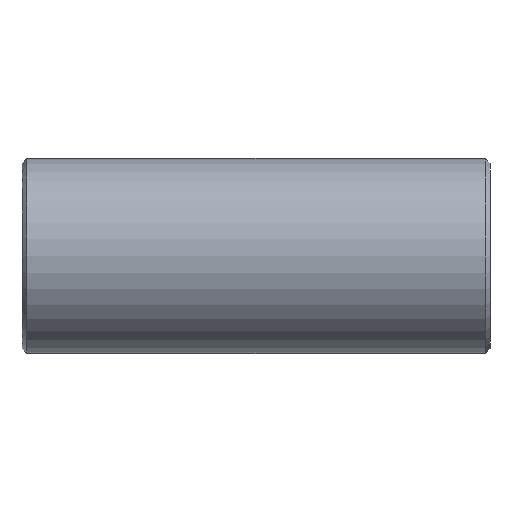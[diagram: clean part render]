
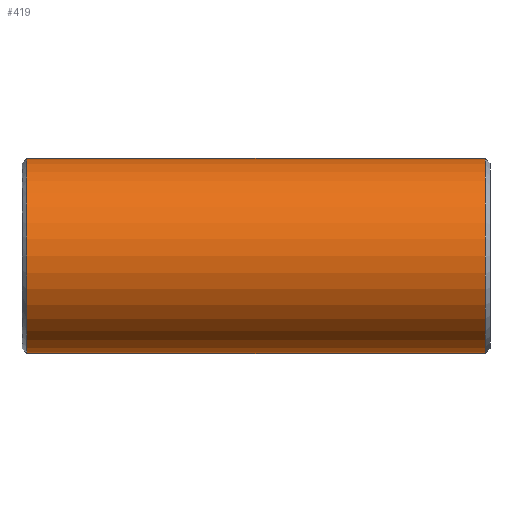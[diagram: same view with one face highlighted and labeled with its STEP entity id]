
A CAD part, front view. The second image highlights one B-rep face of the part: STEP entity #419.
In plain terms, the highlighted cylindrical face has radius 20 mm (diameter 40 mm), a partial arc.
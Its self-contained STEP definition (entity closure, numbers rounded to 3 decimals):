
#231=CARTESIAN_POINT('Vertex',(1.,0.,-20.)) ;
#238=CARTESIAN_POINT('Vertex',(1.,0.,20.)) ;
#267=CARTESIAN_POINT('Axis2P3D Location',(1.,0.,0.)) ;
#271=CARTESIAN_POINT('Vertex',(1.,-20.,0.)) ;
#274=CARTESIAN_POINT('Axis2P3D Location',(1.,0.,0.)) ;
#359=CARTESIAN_POINT('Line Origine',(96.,0.,20.)) ;
#363=CARTESIAN_POINT('Vertex',(95.,0.,20.)) ;
#377=CARTESIAN_POINT('Vertex',(95.,0.,-20.)) ;
#380=CARTESIAN_POINT('Line Origine',(96.,0.,-20.)) ;
#394=CARTESIAN_POINT('Axis2P3D Location',(96.,0.,0.)) ;
#399=CARTESIAN_POINT('Axis2P3D Location',(95.,0.,0.)) ;
#403=CARTESIAN_POINT('Vertex',(95.,-20.,0.)) ;
#406=CARTESIAN_POINT('Axis2P3D Location',(95.,0.,0.)) ;
#268=DIRECTION('Axis2P3D Direction',(1.,0.,-0.)) ;
#275=DIRECTION('Axis2P3D Direction',(1.,0.,-0.)) ;
#360=DIRECTION('Vector Direction',(-1.,0.,0.)) ;
#381=DIRECTION('Vector Direction',(-1.,0.,0.)) ;
#395=DIRECTION('Axis2P3D Direction',(-1.,-0.,-0.)) ;
#396=DIRECTION('Axis2P3D XDirection',(0.,0.,-1.)) ;
#400=DIRECTION('Axis2P3D Direction',(-1.,-0.,-0.)) ;
#407=DIRECTION('Axis2P3D Direction',(-1.,-0.,-0.)) ;
#269=AXIS2_PLACEMENT_3D('Circle Axis2P3D',#267,#268,$) ;
#276=AXIS2_PLACEMENT_3D('Circle Axis2P3D',#274,#275,$) ;
#397=AXIS2_PLACEMENT_3D('Cylinder Axis2P3D',#394,#395,#396) ;
#401=AXIS2_PLACEMENT_3D('Circle Axis2P3D',#399,#400,$) ;
#408=AXIS2_PLACEMENT_3D('Circle Axis2P3D',#406,#407,$) ;
#412=ORIENTED_EDGE('',*,*,#384,.T.) ;
#413=ORIENTED_EDGE('',*,*,#405,.F.) ;
#414=ORIENTED_EDGE('',*,*,#410,.F.) ;
#415=ORIENTED_EDGE('',*,*,#365,.T.) ;
#416=ORIENTED_EDGE('',*,*,#278,.T.) ;
#417=ORIENTED_EDGE('',*,*,#273,.T.) ;
#361=VECTOR('Line Direction',#360,1.) ;
#382=VECTOR('Line Direction',#381,1.) ;
#419=ADVANCED_FACE('352-32X96',(#418),#398,.T.) ;
#270=CIRCLE('generated circle',#269,20.) ;
#277=CIRCLE('generated circle',#276,20.) ;
#402=CIRCLE('generated circle',#401,20.) ;
#409=CIRCLE('generated circle',#408,20.) ;
#398=CYLINDRICAL_SURFACE('generated cylinder',#397,20.) ;
#273=EDGE_CURVE('',#272,#232,#270,.T.) ;
#278=EDGE_CURVE('',#239,#272,#277,.T.) ;
#365=EDGE_CURVE('',#364,#239,#362,.T.) ;
#384=EDGE_CURVE('',#232,#378,#383,.F.) ;
#405=EDGE_CURVE('',#404,#378,#402,.F.) ;
#410=EDGE_CURVE('',#364,#404,#409,.F.) ;
#411=EDGE_LOOP('',(#412,#413,#414,#415,#416,#417)) ;
#418=FACE_OUTER_BOUND('',#411,.T.) ;
#362=LINE('Line',#359,#361) ;
#383=LINE('Line',#380,#382) ;
#232=VERTEX_POINT('',#231) ;
#239=VERTEX_POINT('',#238) ;
#272=VERTEX_POINT('',#271) ;
#364=VERTEX_POINT('',#363) ;
#378=VERTEX_POINT('',#377) ;
#404=VERTEX_POINT('',#403) ;
